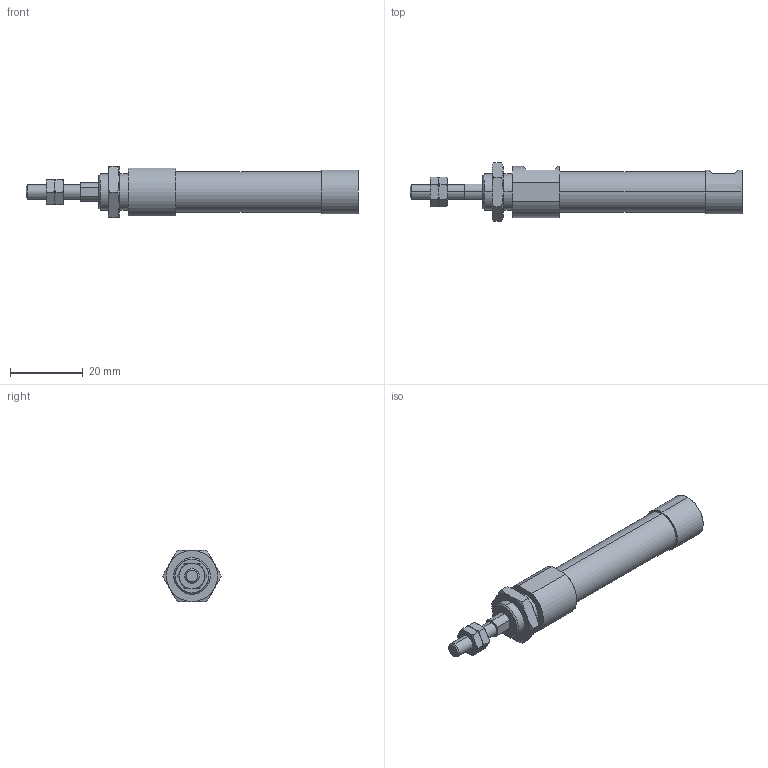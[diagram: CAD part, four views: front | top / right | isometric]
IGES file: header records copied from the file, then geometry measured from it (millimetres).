
Start section: SolidWorks IGES file using analytic representation for surfaces
Global section: file name: C:\Users\Toshiba\Desktop\ZGU2-10-15-N.IGS; native system: SolidWorks 2014; preprocessor: SolidWorks 2014; author: Toshiba; date: 160331.085107; units: millimetre
Bounding box: 91 x 16.17 x 14 mm (x, y, z)
Surface area: 4104.4 mm2 (no closed solid volume)
Topology: 0 solids, 0 shells, 108 faces, 1612 edges, 1608 vertices
Faces by surface type: bspline 77, revolution 31
